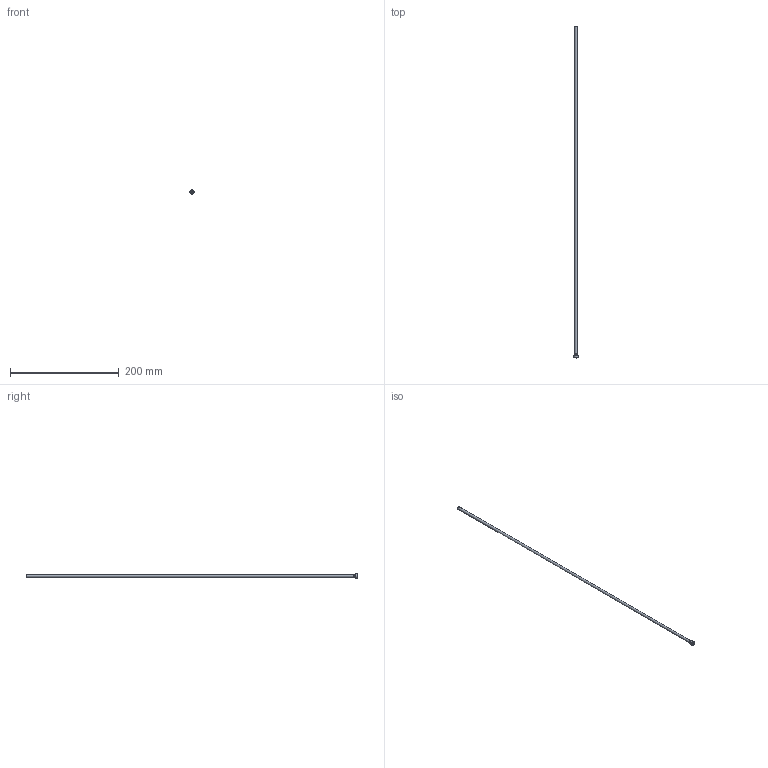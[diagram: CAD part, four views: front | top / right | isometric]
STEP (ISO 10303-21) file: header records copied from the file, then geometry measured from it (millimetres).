
FILE_DESCRIPTION(/* description */ (''),/* implementation_level */ '2;1');
FILE_NAME(/* name */ 'C:/Users/drich/Desktop/PT16-187-24 v1.step',/* time_stamp */ '2019-12-27T15:20:39-06:00',/* author */ (''),/* organization */ (''),/* preprocessor_version */ 'ST-DEVELOPER v18',/* originating_system */ 'Autodesk Translation Framework v8.12.0.6',/* authorisation */ '');
FILE_SCHEMA (('AUTOMOTIVE_DESIGN { 1 0 10303 214 3 1 1 }'));
Length unit declared in the file: inch
Products named in the file (1): PT16-187-24
Bounding box: 7.62 x 609.6 x 7.62 mm (x, y, z)
Volume: 2254.8 mm3; surface area: 17278.3 mm2
Topology: 1 solids, 1 shells, 25 faces, 62 edges, 41 vertices
Faces by surface type: plane 16, cylinder 5, torus 2, cone 2
Full cylindrical faces by diameter (mm): 3.962 x1, 4.242 x1, 4.724 x1, 5.969 x1, 7.616 x1
Entity records: 798 total; most frequent: DIRECTION 145, CARTESIAN_POINT 129, ORIENTED_EDGE 124, EDGE_CURVE 62, AXIS2_PLACEMENT_3D 57, VERTEX_POINT 41, LINE 31, VECTOR 31
